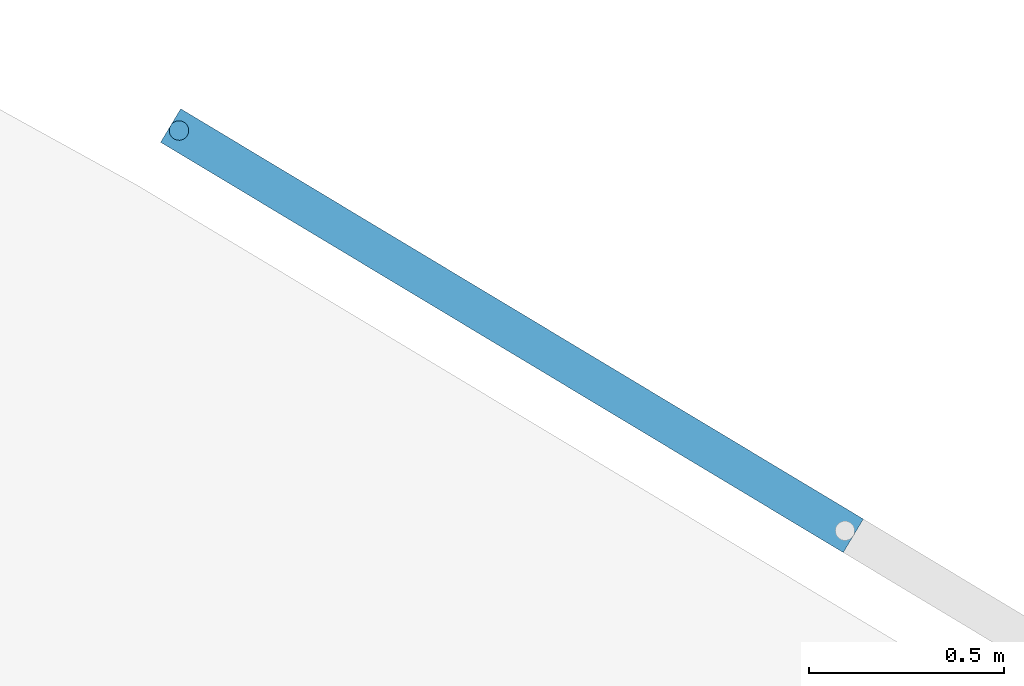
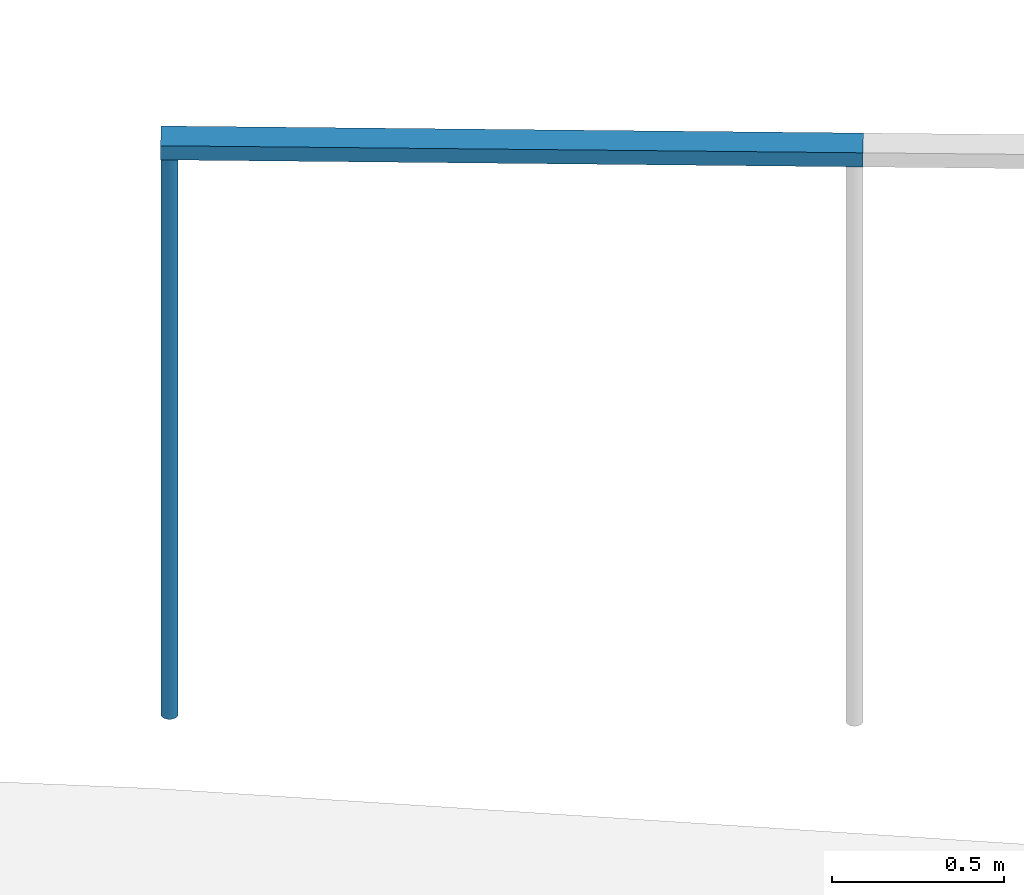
# One storey, part 5 of 12: 2 members, 1 element without a shape of its own.
"""IFC2X3 building model written with IfcOpenShell, lengths in metres."""

from ifc_helpers import new_model, entity, si_unit, converted_unit, derived_unit, direction, frame, frame_2d, origin, origin_2d_with_axis, place, context, subcontext, project, spatial, rectangle, circle, extrude, source, transform, mapped, material, type_object, type_shapes, element, aggregate, save


model = new_model("IFC2X3")

# Units and contexts
model_context = context("Model", 3, precision=1e-05, world=origin(), true_north=direction((6.123031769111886e-17, 1.0)))
body_context = subcontext(model_context, "Body", "Model", "MODEL_VIEW")
ifc_project = project(units=[si_unit("LENGTHUNIT", "METRE"), si_unit("AREAUNIT", "SQUARE_METRE"), si_unit("VOLUMEUNIT", "CUBIC_METRE"), converted_unit("PLANEANGLEUNIT", "DEGREE", entity("IfcRatioMeasure", 0.017453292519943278), si_unit("PLANEANGLEUNIT", "RADIAN"), dimensions=[0, 0, 0, 0, 0, 0, 0]), si_unit("MASSUNIT", "GRAM", prefix="KILO"), derived_unit("MASSDENSITYUNIT", [(si_unit("MASSUNIT", "GRAM", prefix="KILO"), 1), (si_unit("LENGTHUNIT", "METRE"), -3)]), derived_unit("IONCONCENTRATIONUNIT", [(si_unit("MASSUNIT", "GRAM", prefix="KILO"), 1), (si_unit("LENGTHUNIT", "METRE"), -3)]), derived_unit("MOMENTOFINERTIAUNIT", [(si_unit("LENGTHUNIT", "METRE"), 4)]), si_unit("TIMEUNIT", "SECOND"), si_unit("FREQUENCYUNIT", "HERTZ"), si_unit("THERMODYNAMICTEMPERATUREUNIT", "DEGREE_CELSIUS"), derived_unit("THERMALTRANSMITTANCEUNIT", [(si_unit("MASSUNIT", "GRAM", prefix="KILO"), 1), (si_unit("THERMODYNAMICTEMPERATUREUNIT", "KELVIN"), -1), (si_unit("TIMEUNIT", "SECOND"), -3)]), derived_unit("THERMALCONDUCTANCEUNIT", [(si_unit("MASSUNIT", "GRAM", prefix="KILO"), 1), (si_unit("THERMODYNAMICTEMPERATUREUNIT", "KELVIN"), -1), (si_unit("TIMEUNIT", "SECOND"), -3), (si_unit("LENGTHUNIT", "METRE"), 1)]), derived_unit("VOLUMETRICFLOWRATEUNIT", [(si_unit("LENGTHUNIT", "METRE"), 3), (si_unit("TIMEUNIT", "SECOND"), -1)]), derived_unit("MASSFLOWRATEUNIT", [(si_unit("MASSUNIT", "GRAM", prefix="KILO"), 1), (si_unit("TIMEUNIT", "SECOND"), -1)]), derived_unit("ROTATIONALFREQUENCYUNIT", [(si_unit("TIMEUNIT", "SECOND"), -1)]), si_unit("ELECTRICCURRENTUNIT", "AMPERE"), si_unit("ELECTRICVOLTAGEUNIT", "VOLT"), si_unit("POWERUNIT", "WATT"), si_unit("FORCEUNIT", "NEWTON", prefix="KILO"), si_unit("ILLUMINANCEUNIT", "LUX"), si_unit("LUMINOUSFLUXUNIT", "LUMEN"), si_unit("LUMINOUSINTENSITYUNIT", "CANDELA"), derived_unit("USERDEFINED", [(si_unit("MASSUNIT", "GRAM", prefix="KILO"), -1), (si_unit("LENGTHUNIT", "METRE"), -2), (si_unit("TIMEUNIT", "SECOND"), 3), (si_unit("LUMINOUSFLUXUNIT", "LUMEN"), 1)]), derived_unit("USERDEFINED", [(si_unit("MASSUNIT", "GRAM", prefix="KILO"), 1), (si_unit("TIMEUNIT", "SECOND"), -3), (si_unit("LENGTHUNIT", "METRE"), 3), (si_unit("ELECTRICCURRENTUNIT", "AMPERE"), -2)]), derived_unit("SOUNDPOWERUNIT", [(si_unit("MASSUNIT", "GRAM", prefix="KILO"), 1), (si_unit("TIMEUNIT", "SECOND"), -3), (si_unit("LENGTHUNIT", "METRE"), 2)]), derived_unit("SOUNDPRESSUREUNIT", [(si_unit("MASSUNIT", "GRAM", prefix="KILO"), 1), (si_unit("LENGTHUNIT", "METRE"), -1), (si_unit("TIMEUNIT", "SECOND"), -2)]), derived_unit("LINEARVELOCITYUNIT", [(si_unit("LENGTHUNIT", "METRE"), 1), (si_unit("TIMEUNIT", "SECOND"), -1)]), si_unit("PRESSUREUNIT", "PASCAL"), derived_unit("USERDEFINED", [(si_unit("MASSUNIT", "GRAM", prefix="KILO"), 1), (si_unit("LENGTHUNIT", "METRE"), -2), (si_unit("TIMEUNIT", "SECOND"), -2)]), derived_unit("LINEARFORCEUNIT", [(si_unit("MASSUNIT", "GRAM", prefix="KILO"), 1), (si_unit("TIMEUNIT", "SECOND"), -2)]), derived_unit("PLANARFORCEUNIT", [(si_unit("MASSUNIT", "GRAM", prefix="KILO"), 1), (si_unit("LENGTHUNIT", "METRE"), -1), (si_unit("TIMEUNIT", "SECOND"), -2)]), derived_unit("SPECIFICHEATCAPACITYUNIT", [(si_unit("THERMODYNAMICTEMPERATUREUNIT", "KELVIN"), -1), (si_unit("LENGTHUNIT", "METRE"), 2), (si_unit("TIMEUNIT", "SECOND"), -2)]), derived_unit("HEATINGVALUEUNIT", [(si_unit("LENGTHUNIT", "METRE"), 2), (si_unit("TIMEUNIT", "SECOND"), -2)]), derived_unit("VAPORPERMEABILITYUNIT", [(si_unit("LENGTHUNIT", "METRE"), -1), (si_unit("TIMEUNIT", "SECOND"), 1)]), derived_unit("DYNAMICVISCOSITYUNIT", [(si_unit("MASSUNIT", "GRAM", prefix="KILO"), 1), (si_unit("TIMEUNIT", "SECOND"), -1), (si_unit("LENGTHUNIT", "METRE"), -1)]), derived_unit("THERMALEXPANSIONCOEFFICIENTUNIT", [(si_unit("THERMODYNAMICTEMPERATUREUNIT", "KELVIN"), -1)]), derived_unit("MODULUSOFELASTICITYUNIT", [(si_unit("MASSUNIT", "GRAM", prefix="KILO"), 1), (si_unit("LENGTHUNIT", "METRE"), -1), (si_unit("TIMEUNIT", "SECOND"), -2)]), derived_unit("ISOTHERMALMOISTURECAPACITYUNIT", [(si_unit("LENGTHUNIT", "METRE"), 3), (si_unit("MASSUNIT", "GRAM", prefix="KILO"), -1)]), derived_unit("MOISTUREDIFFUSIVITYUNIT", [(si_unit("TIMEUNIT", "SECOND"), -1), (si_unit("LENGTHUNIT", "METRE"), 2)])], contexts=[model_context])

# Site, building, storey
site_placement = place(None, origin())
site = spatial("IfcSite", under=ifc_project, at=site_placement, Name="Superficie", CompositionType="ELEMENT")
building_placement = place(site_placement, frame((0.0, 0.0, 235.0), z_axis=(0.0, 0.0, 1.0), x_axis=(-0.7996477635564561, 0.6004693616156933, 0.0)))
building = spatial("IfcBuilding", under=site, at=building_placement, CompositionType="ELEMENT")
storey_placement = place(building_placement, frame((0.0, 0.0, -4.459999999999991)))
storey = spatial("IfcBuildingStorey", under=building, at=storey_placement, Name="PS1- Vestuari", CompositionType="ELEMENT", Elevation=-4.459999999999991)

# Curtain wall, members
curtain_wall_type = type_object("IfcCurtainWallType", Name="Muro cortina:SER EXT- Tanca exterior", PredefinedType="NOTDEFINED")
curtain_wall_placement = place(storey_placement, frame((0.0, 0.0, 4.459999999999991)))
curtain_wall = element("IfcCurtainWall", 1, at=curtain_wall_placement, inside=storey, type_object=curtain_wall_type, Name="Muro cortina:SER EXT- Tanca exterior", ObjectType="Muro cortina:SER EXT- Tanca exterior")
ifc_material_1 = material(Name="Acero inoxidable")
member_type_1 = type_object("IfcMemberType", Name="Montante circular:Perfil Tanca exterior", PredefinedType="MULLION", material=ifc_material_1)
shared_shape_1 = source(origin(), body_context, "Body", "SweptSolid", [
    extrude(circle(Radius=0.025, at=frame_2d((1.3661718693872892e-31, -4.46185640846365e-17), x_axis=(1.0, 0.0))), frame((-0.025, 0.0, -2.0), z_axis=(0.0, 0.0, 1.0), x_axis=(-1.0, 0.0, 0.0)), (0.0, 0.0, 1.0), 1.9999999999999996),
])
type_shapes(member_type_1, [shared_shape_1])
member_1_placement = place(curtain_wall_placement, frame((69.81851908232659, -65.59280900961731, -4.674999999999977), z_axis=(0.0, 0.0, -1.0), x_axis=(0.9947053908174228, 0.10276762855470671, 0.0)))
member_1 = element("IfcMember", 2, at=member_1_placement, type_object=member_type_1, material=ifc_material_1, Name="Montante circular:Perfil Tanca exterior", ObjectType="Montante circular:Perfil Tanca exterior", context=body_context, shape_type="MappedRepresentation", body=[
    mapped(shared_shape_1, transform((0.0, 0.0, 0.0), scale=1.0)),
])
ifc_material_2 = material(Name="_Formigó- Solera- T1- STR")
member_type_2 = type_object("IfcMemberType", Name="Montante rectangular:Montante rectangular 100x50", PredefinedType="MULLION", material=ifc_material_2)
shared_shape_2 = source(origin(), body_context, "Body", "SweptSolid", [
    extrude(rectangle(XDim=0.1, YDim=0.05000000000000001, at=origin_2d_with_axis()), frame((-0.025000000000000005, 0.0, -2.0387870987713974), z_axis=(0.0, 0.0, 1.0), x_axis=(0.0, -1.0, 0.0)), (0.0, 0.0, 1.0), 2.0387870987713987),
])
type_shapes(member_type_2, [shared_shape_2])
member_2_placement = place(curtain_wall_placement, frame((69.81851908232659, -65.59280900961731, -2.624999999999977), z_axis=(0.9947053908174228, 0.10276762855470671, 0.0), x_axis=(0.0, 0.0, 1.0)))
member_2 = element("IfcMember", 3, at=member_2_placement, type_object=member_type_2, material=ifc_material_2, Name="Montante rectangular:Montante rectangular 100x50", ObjectType="Montante rectangular:Montante rectangular 100x50", context=body_context, shape_type="MappedRepresentation", body=[
    mapped(shared_shape_2, transform((0.0, 0.0, 0.0), scale=1.0)),
])
aggregate(curtain_wall, [member_1, member_2])

save(model, "model.ifc")
